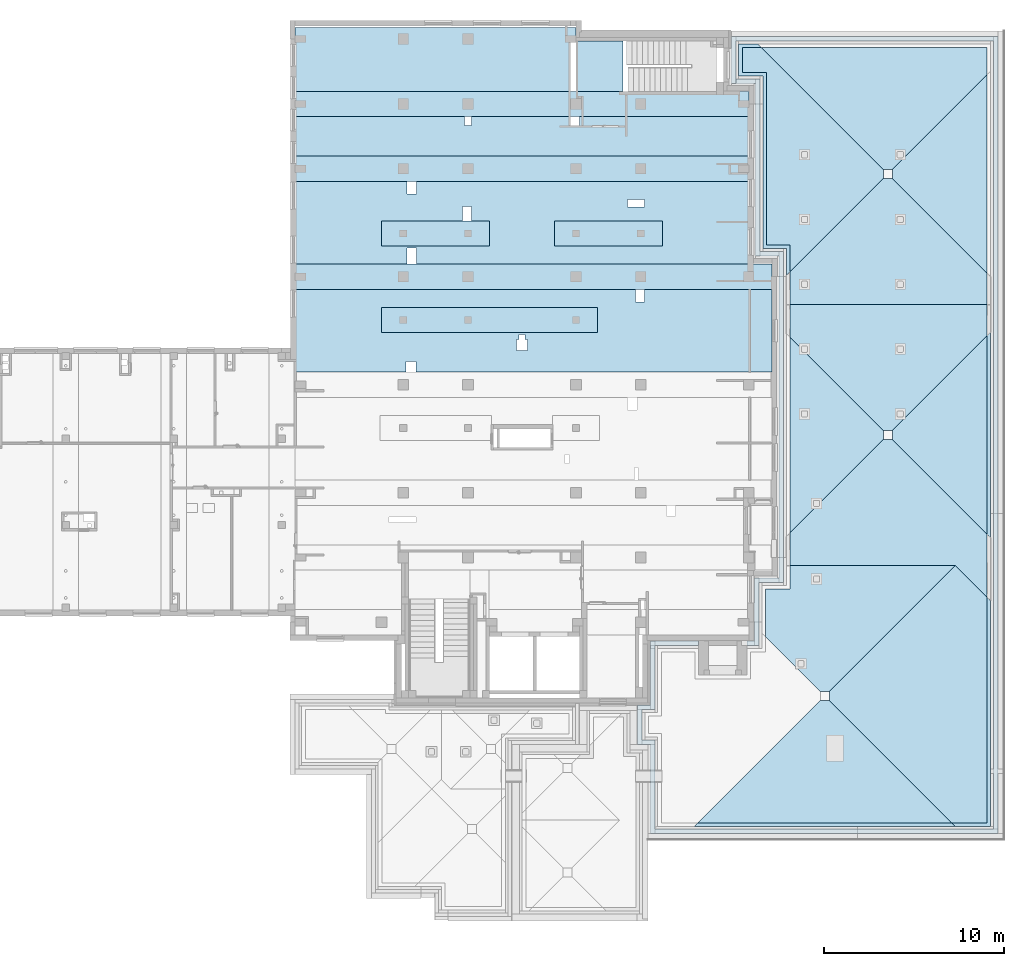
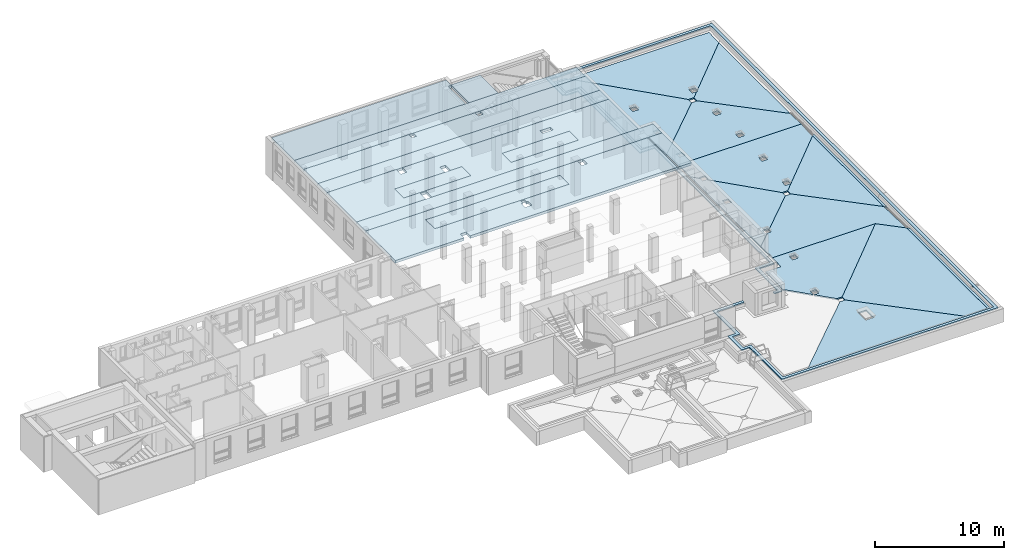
# One storey, part 6 of 50: 28 slabs, 11 openings, 2 elements without a shape of their own.
"""IFC4 building model written with IfcOpenShell, lengths in metres."""

from ifc_helpers import new_model, entity, si_unit, converted_unit, derived_unit, frame, frame_2d, origin, origin_with_axes, place, context, subcontext, project, spatial, polyline, rectangle, outline, extrude, material, layer, layer_set, layer_usage, element, aggregate, save


model = new_model("IFC4")

# Units and contexts
model_context = context("Model", 3, precision=1e-05, world=origin())
body_context = subcontext(model_context, "Body", "Model", "MODEL_VIEW")
ifc_project = project(units=[si_unit("LENGTHUNIT", "METRE"), si_unit("AREAUNIT", "SQUARE_METRE"), si_unit("VOLUMEUNIT", "CUBIC_METRE"), si_unit("MASSUNIT", "GRAM", prefix="KILO"), converted_unit("PLANEANGLEUNIT", "DEGREE", entity("IfcPlaneAngleMeasure", 0.0174532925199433), si_unit("PLANEANGLEUNIT", "RADIAN"), dimensions=[0, 0, 0, 0, 0, 0, 0]), derived_unit("THERMALTRANSMITTANCEUNIT", [(si_unit("POWERUNIT", "WATT"), 1), (si_unit("THERMODYNAMICTEMPERATUREUNIT", "KELVIN"), -1), (si_unit("LENGTHUNIT", "METRE"), -2)]), derived_unit("VOLUMETRICFLOWRATEUNIT", [(si_unit("LENGTHUNIT", "METRE"), 3), (converted_unit("TIMEUNIT", "hour", entity("IfcTimeMeasure", 3600.0), si_unit("TIMEUNIT", "SECOND"), dimensions=[0, 0, 1, 0, 0, 0, 0]), -1), (si_unit("LENGTHUNIT", "METRE"), -1)])], contexts=[model_context])

# Site, building, storey
site_placement = place(None, origin())
site = spatial("IfcSite", under=ifc_project, at=site_placement, Name="3. ASŘ", CompositionType="ELEMENT")
building_placement = place(site_placement, origin())
building = spatial("IfcBuilding", under=site, at=building_placement, Name="Pavilon C", CompositionType="ELEMENT")
storey_placement = place(building_placement, frame((0.0, 0.0, 3.6)))
storey = spatial("IfcBuildingStorey", under=building, at=storey_placement, Name="Půdorys 2.NP", CompositionType="ELEMENT", Elevation=3.6)

# Slabs
ifc_material_1 = material(Name="RZT")
slab_1_placement = place(storey_placement, frame((39.15, 20.9, 3.25)))
element("IfcSlab", 1, at=slab_1_placement, inside=storey, material=ifc_material_1, PredefinedType="FLOOR", context=body_context, shape_type="SweptSolid", body=[
    extrude(rectangle(XDim=1.4, YDim=6.0, at=frame_2d((-3.0, 0.7), x_axis=(0.0, 1.0))), frame((6.0, 0.0, 0.0), z_axis=(0.0, 0.0, 1.0), x_axis=(1.0, 0.0, 0.0)), (0.0, 0.0, 1.0), 0.25),
])
ifc_material_2 = material(Name="RZT")
slab_2_placement = place(storey_placement, frame((24.75, 24.5, 3.25)))
element("IfcSlab", 2, at=slab_2_placement, inside=storey, material=ifc_material_2, PredefinedType="FLOOR", context=body_context, shape_type="SweptSolid", body=[
    extrude(rectangle(XDim=1.4, YDim=25.2, at=frame_2d((-12.6, 0.700000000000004), x_axis=(0.0, 1.0))), frame((25.2, 0.0, 0.0), z_axis=(0.0, 0.0, 1.0), x_axis=(1.0, 0.0, 0.0)), (0.0, 0.0, 1.0), 0.25),
])
ifc_material_3 = material(Name="RZT")
slab_3_placement = place(storey_placement, frame((29.55, 20.9, 3.25)))
element("IfcSlab", 3, at=slab_3_placement, inside=storey, material=ifc_material_3, PredefinedType="FLOOR", context=body_context, shape_type="SweptSolid", body=[
    extrude(rectangle(XDim=1.4, YDim=6.0, at=frame_2d((-3.0, 0.7), x_axis=(0.0, 1.0))), frame((6.0, 0.0, 0.0), z_axis=(0.0, 0.0, 1.0), x_axis=(1.0, 0.0, 0.0)), (0.0, 0.0, 1.0), 0.25),
])

# Slab, openings
ifc_material_4 = material(Name="PZD")
slab_4_placement = place(storey_placement, frame((24.75, 19.9, 3.25)))
slab_4 = element("IfcSlab", 4, at=slab_4_placement, inside=storey, material=ifc_material_4, PredefinedType="FLOOR", context=body_context, shape_type="SweptSolid", body=[
    extrude(outline(polyline([(0.0, 4.59999999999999), (0.0, 0.0), (25.2, 0.0), (25.2, 4.59999999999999), (0.0, 4.59999999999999)]), holes=[polyline([(20.4, 0.999999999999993), (14.4, 0.999999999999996), (14.4, 2.4), (20.4, 2.4), (20.4, 0.999999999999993)]), polyline([(10.8, 0.999999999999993), (4.8, 0.999999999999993), (4.8, 2.4), (10.8, 2.39999999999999), (10.8, 0.999999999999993)])]), origin_with_axes(), (0.0, 0.0, 1.0), 0.25),
])
opening_1_placement = place(slab_4_placement, frame((6.2, 3.9, 9.09494701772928e-16)))
element("IfcOpeningElement", 5, at=opening_1_placement, cuts=slab_4, Name="Prostup deskou", ObjectType="Opening", context=body_context, shape_type="SweptSolid", body=[
    extrude(rectangle(XDim=0.7, YDim=0.55, at=frame_2d((7.27595761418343e-15, -3.63797880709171e-15), x_axis=(0.0, -1.0))), frame((0.274999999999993, 0.350000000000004, -9.09494701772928e-16), z_axis=(0.0, 0.0, 1.0), x_axis=(1.0, 0.0, 0.0)), (0.0, 0.0, 1.0), 0.25),
])
opening_2_placement = place(slab_4_placement, frame((9.3, 2.4, 0.0)))
element("IfcOpeningElement", 6, at=opening_2_placement, cuts=slab_4, Name="Prostup deskou", ObjectType="Opening", context=body_context, shape_type="SweptSolid", body=[
    extrude(rectangle(XDim=0.8, YDim=0.5, at=frame_2d((7.27595761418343e-15, -3.63797880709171e-15), x_axis=(0.0, -1.0))), frame((0.249999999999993, 0.400000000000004, 0.0), z_axis=(0.0, 0.0, 1.0), x_axis=(1.0, 0.0, 0.0)), (0.0, 0.0, 1.0), 0.25),
])
opening_3_placement = place(slab_4_placement, frame((18.45, 3.17499999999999, 0.0)))
element("IfcOpeningElement", 7, at=opening_3_placement, cuts=slab_4, Name="Prostup deskou", ObjectType="Opening", context=body_context, shape_type="SweptSolid", body=[
    extrude(rectangle(XDim=0.4, YDim=0.95, at=frame_2d((7.27595761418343e-15, -3.63797880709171e-15), x_axis=(0.0, -1.0))), frame((0.474999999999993, 0.200000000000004, 0.0), z_axis=(0.0, 0.0, 1.0), x_axis=(1.0, 0.0, 0.0)), (0.0, 0.0, 1.0), 0.25),
])
opening_4_placement = place(slab_4_placement, frame((6.2, 0.0, 0.0)))
element("IfcOpeningElement", 8, at=opening_4_placement, cuts=slab_4, Name="Prostup deskou", ObjectType="Opening", context=body_context, shape_type="SweptSolid", body=[
    extrude(rectangle(XDim=0.9, YDim=0.55, at=frame_2d((7.27595761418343e-15, 0.0), x_axis=(0.0, -1.0))), frame((0.274999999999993, 0.45, 0.0), z_axis=(0.0, 0.0, 1.0), x_axis=(1.0, 0.0, 0.0)), (0.0, 0.0, 1.0), 0.25),
])

# Slabs
ifc_material_5 = material(Name="RZT")
slab_5_placement = place(storey_placement, frame((29.55, 16.1, 3.25)))
element("IfcSlab", 9, at=slab_5_placement, inside=storey, material=ifc_material_5, PredefinedType="FLOOR", context=body_context, shape_type="SweptSolid", body=[
    extrude(rectangle(XDim=1.4, YDim=12.0, at=frame_2d((-6.0, 0.7), x_axis=(0.0, 1.0))), frame((12.0, 0.0, 0.0), z_axis=(0.0, 0.0, 1.0), x_axis=(1.0, 0.0, 0.0)), (0.0, 0.0, 1.0), 0.25),
])
ifc_material_6 = material(Name="PZD")
slab_6_placement = place(storey_placement, frame((50.05, 13.9, 3.25)))
element("IfcSlab", 10, at=slab_6_placement, inside=storey, material=ifc_material_6, PredefinedType="FLOOR", context=body_context, shape_type="SweptSolid", body=[
    extrude(rectangle(XDim=1.2, YDim=4.6, at=frame_2d((0.6, 2.3), x_axis=(1.0, 0.0))), origin_with_axes(), (0.0, 0.0, 1.0), 0.25),
])
ifc_material_7 = material(Name="RZT")
slab_7_placement = place(storey_placement, frame((24.75, 18.5, 3.25)))
element("IfcSlab", 11, at=slab_7_placement, inside=storey, material=ifc_material_7, PredefinedType="FLOOR", context=body_context, shape_type="SweptSolid", body=[
    extrude(rectangle(XDim=1.4, YDim=26.5, at=frame_2d((-13.25, 0.7), x_axis=(0.0, 1.0))), frame((26.5, 0.0, 0.0), z_axis=(0.0, 0.0, 1.0), x_axis=(1.0, 0.0, 0.0)), (0.0, 0.0, 1.0), 0.25),
])
ifc_material_8 = material(Name="RZT")
slab_8_placement = place(storey_placement, frame((24.75, 28.1, 3.25)))
element("IfcSlab", 12, at=slab_8_placement, inside=storey, material=ifc_material_8, PredefinedType="FLOOR", context=body_context, shape_type="SweptSolid", body=[
    extrude(rectangle(XDim=1.4, YDim=25.2, at=frame_2d((-12.6, 0.700000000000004), x_axis=(0.0, 1.0))), frame((25.2, 0.0, 0.0), z_axis=(0.0, 0.0, 1.0), x_axis=(1.0, 0.0, 0.0)), (0.0, 0.0, 1.0), 0.25),
])

# Slab, opening
ifc_material_9 = material(Name="PZD")
slab_9_placement = place(storey_placement, frame((24.75, 29.5, 3.25)))
slab_9 = element("IfcSlab", 13, at=slab_9_placement, inside=storey, material=ifc_material_9, PredefinedType="FLOOR", context=body_context, shape_type="SweptSolid", body=[
    extrude(outline(polyline([(0.0, 3.63797880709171e-15), (18.2, 0.0), (18.2, 2.8), (15.6, 2.8), (15.6, 3.55), (0.0, 3.55), (0.0, 3.63797880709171e-15)])), origin_with_axes(), (0.0, 0.0, 1.0), 0.25),
])
opening_5_placement = place(slab_9_placement, frame((15.3, 0.0, 0.0)))
element("IfcOpeningElement", 14, at=opening_5_placement, cuts=slab_9, Name="Prostup deskou", ObjectType="Opening", context=body_context, shape_type="SweptSolid", body=[
    extrude(rectangle(XDim=2.7, YDim=0.3, at=frame_2d((7.27595761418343e-15, -3.63797880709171e-15), x_axis=(0.0, -1.0))), frame((0.149999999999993, 1.35, 0.0), z_axis=(0.0, 0.0, 1.0), x_axis=(1.0, 0.0, 0.0)), (0.0, 0.0, 1.0), 0.25),
])

# Slab, openings
ifc_material_10 = material(Name="PZD")
slab_10_placement = place(storey_placement, frame((24.75, 25.9, 3.25)))
slab_10 = element("IfcSlab", 15, at=slab_10_placement, inside=storey, material=ifc_material_10, PredefinedType="FLOOR", context=body_context, shape_type="SweptSolid", body=[
    extrude(rectangle(XDim=25.2, YDim=2.2, at=frame_2d((12.6, 1.1), x_axis=(1.0, -1.44364238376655e-16))), frame((0.0, 3.63797880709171e-15, 0.0), z_axis=(0.0, 0.0, 1.0), x_axis=(1.0, 0.0, 0.0)), (0.0, 0.0, 1.0), 0.25),
])
opening_6_placement = place(slab_10_placement, frame((15.3, 1.7, 0.0)))
element("IfcOpeningElement", 16, at=opening_6_placement, cuts=slab_10, Name="Prostup deskou", ObjectType="Opening", context=body_context, shape_type="SweptSolid", body=[
    extrude(rectangle(XDim=0.5, YDim=0.5, at=frame_2d((7.27595761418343e-15, -3.63797880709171e-15), x_axis=(0.0, -1.0))), frame((0.249999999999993, 0.250000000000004, 0.0), z_axis=(0.0, 0.0, 1.0), x_axis=(1.0, 0.0, 0.0)), (0.0, 0.0, 1.0), 0.25),
])
opening_7_placement = place(slab_10_placement, frame((9.4, 1.7, 0.0)))
element("IfcOpeningElement", 17, at=opening_7_placement, cuts=slab_10, Name="Prostup deskou", ObjectType="Opening", context=body_context, shape_type="SweptSolid", body=[
    extrude(rectangle(XDim=0.5, YDim=0.4, at=frame_2d((7.27595761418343e-15, -3.63797880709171e-15), x_axis=(0.0, -1.0))), frame((0.199999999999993, 0.250000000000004, 0.0), z_axis=(0.0, 0.0, 1.0), x_axis=(1.0, 0.0, 0.0)), (0.0, 0.0, 1.0), 0.25),
])

ifc_material_11 = material(Name="PZD")
slab_11_placement = place(storey_placement, frame((24.75, 13.9, 3.25)))
slab_11 = element("IfcSlab", 18, at=slab_11_placement, inside=storey, material=ifc_material_11, PredefinedType="FLOOR", context=body_context, shape_type="SweptSolid", body=[
    extrude(outline(polyline([(0.0, 4.6), (0.0, 0.0), (25.2, 0.0), (25.2, 4.6), (0.0, 4.6)]), holes=[polyline([(4.8, 3.6), (16.8, 3.6), (16.8, 2.2), (4.8, 2.2), (4.8, 3.6)])]), origin_with_axes(), (0.0, 0.0, 1.0), 0.25),
])
opening_8_placement = place(slab_11_placement, frame((6.15, 0.0, 0.0)))
element("IfcOpeningElement", 19, at=opening_8_placement, cuts=slab_11, Name="Prostup deskou", ObjectType="Opening", context=body_context, shape_type="SweptSolid", body=[
    extrude(rectangle(XDim=0.6, YDim=0.55, at=frame_2d((7.27595761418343e-15, -1.81898940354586e-15), x_axis=(0.0, -1.0))), frame((0.274999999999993, 0.300000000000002, 0.0), z_axis=(0.0, 0.0, 1.0), x_axis=(1.0, 0.0, 0.0)), (0.0, 0.0, 1.0), 0.25),
])
opening_9_placement = place(slab_11_placement, frame((18.9, 3.9, 0.0)))
element("IfcOpeningElement", 20, at=opening_9_placement, cuts=slab_11, Name="Prostup deskou", ObjectType="Opening", context=body_context, shape_type="SweptSolid", body=[
    extrude(rectangle(XDim=0.7, YDim=0.5, at=frame_2d((7.27595761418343e-15, -3.63797880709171e-15), x_axis=(0.0, -1.0))), frame((0.249999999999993, 0.350000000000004, 0.0), z_axis=(0.0, 0.0, 1.0), x_axis=(1.0, 0.0, 0.0)), (0.0, 0.0, 1.0), 0.25),
])
opening_10_placement = place(slab_11_placement, frame((12.425, 1.8, 9.09494701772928e-16)))
element("IfcOpeningElement", 21, at=opening_10_placement, cuts=slab_11, Name="Prostup deskou", ObjectType="Opening", context=body_context, shape_type="SweptSolid", body=[
    extrude(rectangle(XDim=0.275, YDim=0.35, at=frame_2d((7.27595761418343e-15, -3.63797880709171e-15), x_axis=(0.0, -1.0))), frame((0.174999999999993, 0.137500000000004, -9.09494701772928e-16), z_axis=(0.0, 0.0, 1.0), x_axis=(1.0, 0.0, 0.0)), (0.0, 0.0, 1.0), 0.25),
])
opening_11_placement = place(slab_11_placement, frame((12.3, 1.2, 0.0)))
element("IfcOpeningElement", 22, at=opening_11_placement, cuts=slab_11, Name="Prostup deskou", ObjectType="Opening", context=body_context, shape_type="SweptSolid", body=[
    extrude(rectangle(XDim=0.6, YDim=0.6, at=frame_2d((7.27595761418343e-15, -3.63797880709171e-15), x_axis=(0.0, -1.0))), frame((0.299999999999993, 0.300000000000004, 0.0), z_axis=(0.0, 0.0, 1.0), x_axis=(1.0, 0.0, 0.0)), (0.0, 0.0, 1.0), 0.25),
])

# Roof, slabs
roof_1_placement = place(storey_placement, frame((0.0, 0.0, -3.6)))
roof_1 = element("IfcRoof", 23, at=roof_1_placement, inside=storey, PredefinedType="NOTDEFINED")
ifc_material_12 = material(Name="ASFALTOVÁ HYDROIZOLACE")
ifc_layer_1 = layer(ifc_material_12, 0.01)
ifc_material_13 = material(Name="KAČÍREK")
ifc_layer_2 = layer(ifc_material_13, 0.12)
ifc_layer_set_1 = layer_set([ifc_layer_1, ifc_layer_2])
ifc_layer_usage_1 = layer_usage(ifc_layer_set_1, "AXIS3", "POSITIVE", 0.0)
slab_12_placement = place(roof_1_placement, frame((46.94, -11.34, 4.13370000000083)))
slab_12 = element("IfcSlab", 24, at=slab_12_placement, material=ifc_layer_usage_1, PredefinedType="ROOF", context=body_context, shape_type="SweptSolid", body=[
    extrude(outline(polyline([(-7.23999999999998, -0.100044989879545), (7.23999999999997, -0.100044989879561), (7.03999999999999, 0.100044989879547), (-7.04000000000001, 0.100044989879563), (-7.23999999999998, -0.100044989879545)])), frame((7.23999999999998, 0.1, 0.00300000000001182), z_axis=(-3.1830731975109e-17, 0.0299865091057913, 0.999550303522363), x_axis=(1.0, 1.06150175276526e-15, 0.0)), (0.0, -0.0299865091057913, 0.999550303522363), 0.13005848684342),
])
ifc_material_14 = material(Name="ASFALTOVÁ HYDROIZOLACE")
ifc_layer_3 = layer(ifc_material_14, 0.01)
ifc_material_15 = material(Name="KAČÍREK")
ifc_layer_4 = layer(ifc_material_15, 0.12)
ifc_layer_set_2 = layer_set([ifc_layer_3, ifc_layer_4])
ifc_layer_usage_2 = layer_usage(ifc_layer_set_2, "AXIS3", "POSITIVE", 0.0)
slab_13_placement = place(roof_1_placement, frame((61.22, -11.34, 4.13370000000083)))
slab_13 = element("IfcSlab", 25, at=slab_13_placement, material=ifc_layer_usage_2, PredefinedType="ROOF", context=body_context, shape_type="SweptSolid", body=[
    extrude(outline(polyline([(-4.07666666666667, 1.41396919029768), (-4.27666666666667, 1.21387921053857), (-4.27666666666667, -0.757007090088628), (8.25333333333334, -0.757007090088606), (8.45333333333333, -0.556917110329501), (-4.07666666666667, -0.556917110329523), (-4.07666666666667, 1.41396919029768)])), frame((1.41333333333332, 4.27666666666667, 0.0424000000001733), z_axis=(-0.0299865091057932, 5.00335433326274e-17, 0.999550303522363), x_axis=(1.66853511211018e-15, 1.0, 0.0)), (0.0, -0.0299865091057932, 0.999550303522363), 0.130058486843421),
])
ifc_material_16 = material(Name="ASFALTOVÁ HYDROIZOLACE")
ifc_layer_5 = layer(ifc_material_16, 0.01)
ifc_material_17 = material(Name="KAČÍREK")
ifc_layer_6 = layer(ifc_material_17, 0.12)
ifc_layer_set_3 = layer_set([ifc_layer_5, ifc_layer_6])
ifc_layer_usage_3 = layer_usage(ifc_layer_set_3, "AXIS3", "POSITIVE", 0.0)
slab_14_placement = place(roof_1_placement, frame((49.39, 19.26, 4.08570000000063)))
slab_14 = element("IfcSlab", 26, at=slab_14_placement, material=ifc_layer_usage_3, PredefinedType="ROOF", context=body_context, shape_type="SweptSolid", body=[
    extrude(outline(polyline([(-5.36285714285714, -0.142921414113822), (-5.56285714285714, -0.343011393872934), (-5.56285714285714, -1.39348378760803), (-3.76285714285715, -1.39348378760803), (-3.76285714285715, -0.0428764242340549), (5.81714285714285, -0.0428764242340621), (5.81714285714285, 1.25770844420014), (7.31714285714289, 1.25770844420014), (7.11714285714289, 1.45779842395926), (5.61714285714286, 1.45779842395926), (5.61714285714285, 0.15721355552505), (-3.96285714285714, 0.157213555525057), (-3.96285714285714, -1.19339380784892), (-5.36285714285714, -1.19339380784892), (-5.36285714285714, -0.142921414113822)])), frame((1.3928571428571, 7.31714285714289, 0.0437142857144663), z_axis=(0.0299865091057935, 2.34293534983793e-17, 0.999550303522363), x_axis=(7.81329811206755e-16, -1.0, 0.0)), (0.0, -0.0299865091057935, 0.999550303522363), 0.130058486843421),
])
ifc_material_18 = material(Name="ASFALTOVÁ HYDROIZOLACE")
ifc_layer_7 = layer(ifc_material_18, 0.01)
ifc_material_19 = material(Name="KAČÍREK")
ifc_layer_8 = layer(ifc_material_19, 0.12)
ifc_layer_set_4 = layer_set([ifc_layer_7, ifc_layer_8])
ifc_layer_usage_4 = layer_usage(ifc_layer_set_4, "AXIS3", "POSITIVE", 0.0)
slab_15_placement = place(roof_1_placement, frame((63.19, 4.68999999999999, 4.08780000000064)))
slab_15 = element("IfcSlab", 27, at=slab_15_placement, material=ifc_layer_usage_4, PredefinedType="ROOF", context=body_context, shape_type="SweptSolid", body=[
    extrude(outline(polyline([(-5.71000000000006, -0.100044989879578), (5.71000000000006, -0.100044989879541), (5.51000000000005, 0.100044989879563), (-5.51000000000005, 0.100044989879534), (-5.71000000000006, -0.100044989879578)])), frame((0.1, 5.71000000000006, 0.00300000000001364), z_axis=(-0.0299865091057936, 8.10236813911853e-17, 0.999550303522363), x_axis=(2.70200446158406e-15, 1.0, 0.0)), (0.0, -0.0299865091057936, 0.999550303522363), 0.13005848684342),
])
aggregate(roof_1, [slab_12, slab_13, slab_14, slab_15])

roof_2_placement = place(storey_placement, frame((0.0, 0.0, -3.6)))
roof_2 = element("IfcRoof", 28, at=roof_2_placement, inside=storey, PredefinedType="NOTDEFINED")
ifc_material_20 = material(Name="ASFALTOVÁ HYDROIZOLACE")
ifc_layer_9 = layer(ifc_material_20, 0.01)
ifc_material_21 = material(Name="SOUVRSTVÍ ZELENÉ STŘECHY")
ifc_layer_10 = layer(ifc_material_21, 0.12)
ifc_layer_set_5 = layer_set([ifc_layer_9, ifc_layer_10])
ifc_layer_usage_5 = layer_usage(ifc_layer_set_5, "AXIS3", "POSITIVE", 0.0)
slab_16_placement = place(roof_2_placement, frame((47.14, -11.14, 3.93)))
slab_16 = element("IfcSlab", 29, at=slab_16_placement, material=ifc_layer_usage_5, PredefinedType="ROOF", context=body_context, shape_type="SweptSolid", body=[
    extrude(outline(polyline([(6.75999999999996, -3.76819240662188), (-0.0300000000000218, 3.02486240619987), (-0.530000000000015, 3.02486240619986), (-7.32000000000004, -3.76819240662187), (6.75999999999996, -3.76819240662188)]), holes=[polyline([(-0.0699999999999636, -0.228604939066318), (-0.0699999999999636, 0.97193493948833), (0.630000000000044, 0.97193493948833), (0.630000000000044, -0.228604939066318), (-0.0699999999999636, -0.228604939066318)])]), frame((7.32000000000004, 3.76649786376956, 0.090705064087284), z_axis=(-2.84304387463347e-17, 0.029986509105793, 0.999550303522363), x_axis=(1.0, 9.48107652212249e-16, 0.0)), (0.0, -0.029986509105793, 0.999550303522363), 0.13005848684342),
])
ifc_material_22 = material(Name="ASFALTOVÁ HYDROIZOLACE")
ifc_layer_11 = layer(ifc_material_22, 0.01)
ifc_material_23 = material(Name="SOUVRSTVÍ ZELENÉ STŘECHY")
ifc_layer_12 = layer(ifc_material_23, 0.12)
ifc_layer_set_6 = layer_set([ifc_layer_11, ifc_layer_12])
ifc_layer_usage_6 = layer_usage(ifc_layer_set_6, "AXIS3", "POSITIVE", 0.0)
slab_17_placement = place(roof_2_placement, frame((54.43, -11.14, 3.93)))
slab_17 = element("IfcSlab", 30, at=slab_17_placement, material=ifc_layer_usage_6, PredefinedType="ROOF", context=body_context, shape_type="SweptSolid", body=[
    extrude(outline(polyline([(5.71333333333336, -3.54326005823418), (7.47333333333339, -1.782468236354), (0.473333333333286, 5.22068105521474), (-0.0266666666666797, 5.22068105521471), (-6.81666666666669, -1.57237375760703), (-6.81666666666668, -3.54326005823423), (5.71333333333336, -3.54326005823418)])), frame((5.21833333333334, 6.81666666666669, 0.156550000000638), z_axis=(-0.0299865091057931, 1.09435065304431e-16, 0.999550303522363), x_axis=(3.64947666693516e-15, 1.0, 0.0)), (0.0, -0.0299865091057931, 0.999550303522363), 0.130058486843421),
])
ifc_material_24 = material(Name="ASFALTOVÁ HYDROIZOLACE")
ifc_layer_13 = layer(ifc_material_24, 0.01)
ifc_material_25 = material(Name="SOUVRSTVÍ ZELENÉ STŘECHY")
ifc_layer_14 = layer(ifc_material_25, 0.12)
ifc_layer_set_7 = layer_set([ifc_layer_13, ifc_layer_14])
ifc_layer_usage_7 = layer_usage(ifc_layer_set_7, "AXIS3", "POSITIVE", 0.0)
slab_18_placement = place(roof_2_placement, frame((50.88, -3.84999999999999, 3.93)))
slab_18 = element("IfcSlab", 31, at=slab_18_placement, material=ifc_layer_usage_7, PredefinedType="ROOF", context=body_context, shape_type="SweptSolid", body=[
    extrude(outline(polyline([(2.55311374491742, 0.75782953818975), (0.832933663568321, 2.47878352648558), (0.832933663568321, 2.01857657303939), (0.333293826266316, 2.01857657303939), (0.333293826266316, 2.51844119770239), (0.793293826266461, 2.51844119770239), (-0.496886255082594, 3.80920172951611), (-0.996886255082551, 3.80920172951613), (-7.99688625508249, -3.19394756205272), (1.19311374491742, -3.19394756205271), (1.19311374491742, -1.88335819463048), (2.55311374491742, -1.88335819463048), (2.55311374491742, 0.75782953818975)]), holes=[polyline([(-0.03206633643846, -2.19367782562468), (-0.03206633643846, -2.69354245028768), (-0.531706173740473, -2.69354245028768), (-0.531706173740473, -2.19367782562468), (-0.03206633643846, -2.19367782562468)])]), frame((2.55311374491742, 3.80748874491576, 0.114224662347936), z_axis=(-2.31399151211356e-17, -0.0299865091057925, 0.999550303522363), x_axis=(-1.0, 7.71677524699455e-16, 0.0)), (0.0, -0.0299865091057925, 0.999550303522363), 0.13005848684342),
])
ifc_material_26 = material(Name="ASFALTOVÁ HYDROIZOLACE")
ifc_layer_15 = layer(ifc_material_26, 0.01)
ifc_material_27 = material(Name="SOUVRSTVÍ ZELENÉ STŘECHY")
ifc_layer_16 = layer(ifc_material_27, 0.12)
ifc_layer_set_8 = layer_set([ifc_layer_15, ifc_layer_16])
ifc_layer_usage_8 = layer_usage(ifc_layer_set_8, "AXIS3", "POSITIVE", 0.0)
slab_19_placement = place(roof_2_placement, frame((52.24, 17.6500000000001, 3.93)))
slab_19 = element("IfcSlab", 32, at=slab_19_placement, material=ifc_layer_usage_8, PredefinedType="ROOF", context=body_context, shape_type="SweptSolid", body=[
    extrude(outline(polyline([(6.22666666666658, -0.785353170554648), (0.966666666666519, 4.47701329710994), (0.466666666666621, 4.47701329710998), (-4.72333333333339, -0.715321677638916), (-4.72333333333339, -2.52613599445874), (6.22666666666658, -2.52613599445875), (6.22666666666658, -0.785353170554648)]), holes=[polyline([(-3.66351341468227, -1.65056217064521), (-4.16315325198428, -1.65056217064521), (-4.16315325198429, -1.15069754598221), (-3.66351341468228, -1.15069754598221), (-3.66351341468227, -1.65056217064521)]), polyline([(1.65148658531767, -1.15069754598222), (1.65148658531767, -1.65056217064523), (1.15184674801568, -1.65056217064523), (1.15184674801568, -1.15069754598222), (1.65148658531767, -1.15069754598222)]), polyline([(1.65148658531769, 2.45092208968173), (1.65148658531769, 1.95105746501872), (1.15184674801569, 1.95105746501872), (1.1518467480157, 2.45092208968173), (1.65148658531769, 2.45092208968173)])]), frame((4.72333333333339, 2.52500000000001, 0.134250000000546), z_axis=(-5.99224298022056e-17, 0.0299865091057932, 0.999550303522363), x_axis=(1.0, 1.99831296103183e-15, 0.0)), (0.0, -0.0299865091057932, 0.999550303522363), 0.130058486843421),
])
ifc_material_28 = material(Name="ASFALTOVÁ HYDROIZOLACE")
ifc_layer_17 = layer(ifc_material_28, 0.01)
ifc_material_29 = material(Name="SOUVRSTVÍ ZELENÉ STŘECHY")
ifc_layer_18 = layer(ifc_material_29, 0.12)
ifc_layer_set_9 = layer_set([ifc_layer_17, ifc_layer_18])
ifc_layer_usage_9 = layer_usage(ifc_layer_set_9, "AXIS3", "POSITIVE", 0.0)
slab_20_placement = place(roof_2_placement, frame((57.93, 19.39, 3.93)))
slab_20 = element("IfcSlab", 33, at=slab_20_placement, material=ifc_layer_usage_9, PredefinedType="ROOF", context=body_context, shape_type="SweptSolid", body=[
    extrude(outline(polyline([(5.14068855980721, -3.48087677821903), (0.565508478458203, 1.09636167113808), (0.455868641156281, 1.09636167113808), (0.455868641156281, 1.20605083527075), (-0.11931144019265, 1.78148968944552), (-0.619311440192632, 1.78148968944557), (-5.87931144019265, -3.48087677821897), (5.14068855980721, -3.48087677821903)])), frame((1.78068855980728, 5.87931144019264, 0.053420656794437), z_axis=(-0.0299865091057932, -1.50947252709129e-16, 0.999550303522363), x_axis=(-5.03383878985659e-15, 1.0, 0.0)), (0.0, -0.0299865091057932, 0.999550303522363), 0.130058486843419),
])
ifc_material_30 = material(Name="ASFALTOVÁ HYDROIZOLACE")
ifc_layer_19 = layer(ifc_material_30, 0.01)
ifc_material_31 = material(Name="SOUVRSTVÍ ZELENÉ STŘECHY")
ifc_layer_20 = layer(ifc_material_31, 0.12)
ifc_layer_set_10 = layer_set([ifc_layer_19, ifc_layer_20])
ifc_layer_usage_10 = layer_usage(ifc_layer_set_10, "AXIS3", "POSITIVE", 0.0)
slab_21_placement = place(roof_2_placement, frame((50.6399999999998, 25.1499999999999, 3.93)))
slab_21 = element("IfcSlab", 34, at=slab_21_placement, material=ifc_layer_usage_10, PredefinedType="ROOF", context=body_context, shape_type="SweptSolid", body=[
    extrude(outline(polyline([(-4.75548199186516, -4.50954593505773), (7.79451800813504, -4.50954593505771), (1.0045180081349, 2.28350887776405), (0.504518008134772, 2.283508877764), (-0.0706620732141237, 1.70807002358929), (0.319337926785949, 1.70807002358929), (0.319337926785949, 1.20820539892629), (-0.180301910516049, 1.20820539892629), (-0.180301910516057, 1.59838085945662), (-4.75548199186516, -2.9788575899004), (-4.75548199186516, -4.50954593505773)])), frame((7.79451800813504, 2.28248199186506, 0.068474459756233), z_axis=(-3.04335993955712e-17, -0.0299865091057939, 0.999550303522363), x_axis=(-1.0, 1.01490971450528e-15, 0.0)), (0.0, -0.0299865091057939, 0.999550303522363), 0.130058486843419),
])
ifc_material_32 = material(Name="ASFALTOVÁ HYDROIZOLACE")
ifc_layer_21 = layer(ifc_material_32, 0.01)
ifc_material_33 = material(Name="SOUVRSTVÍ ZELENÉ STŘECHY")
ifc_layer_22 = layer(ifc_material_33, 0.12)
ifc_layer_set_11 = layer_set([ifc_layer_21, ifc_layer_22])
ifc_layer_usage_11 = layer_usage(ifc_layer_set_11, "AXIS3", "POSITIVE", 0.0)
slab_22_placement = place(roof_2_placement, frame((49.59, 19.46, 3.93)))
slab_22 = element("IfcSlab", 35, at=slab_22_placement, material=ifc_layer_usage_11, PredefinedType="ROOF", context=body_context, shape_type="SweptSolid", body=[
    extrude(outline(polyline([(5.80705882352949, -0.433135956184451), (0.617058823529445, 4.7591990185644), (0.117058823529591, 4.75919901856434), (-6.67294117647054, -2.0338557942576), (-6.67294117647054, -3.08432818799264), (-5.27294117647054, -3.08432818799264), (-5.27294117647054, -1.73372082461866), (4.30705882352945, -1.73372082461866), (4.30705882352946, -0.433135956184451), (5.80705882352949, -0.433135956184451)]), holes=[polyline([(-0.957761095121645, 0.127296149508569), (-0.957761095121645, 0.627160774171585), (-0.458121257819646, 0.627160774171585), (-0.458121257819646, 0.127296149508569), (-0.957761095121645, 0.127296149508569)]), polyline([(2.64223890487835, 0.127296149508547), (2.64223890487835, 0.627160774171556), (3.14187874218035, 0.627160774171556), (3.14187874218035, 0.12729614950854), (2.64223890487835, 0.127296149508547)])]), frame((3.08294117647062, 5.80705882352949, 0.142711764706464), z_axis=(0.0299865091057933, -1.0566674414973e-17, 0.999550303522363), x_axis=(-3.52380944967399e-16, -1.0, 0.0)), (0.0, -0.0299865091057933, 0.999550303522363), 0.130058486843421),
])
ifc_material_34 = material(Name="ASFALTOVÁ HYDROIZOLACE")
ifc_layer_23 = layer(ifc_material_34, 0.01)
ifc_material_35 = material(Name="SOUVRSTVÍ ZELENÉ STŘECHY")
ifc_layer_24 = layer(ifc_material_35, 0.12)
ifc_layer_set_12 = layer_set([ifc_layer_23, ifc_layer_24])
ifc_layer_usage_12 = layer_usage(ifc_layer_set_12, "AXIS3", "POSITIVE", 0.0)
slab_23_placement = place(roof_2_placement, frame((52.24, 1.39000000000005, 3.93)))
slab_23 = element("IfcSlab", 36, at=slab_23_placement, material=ifc_layer_usage_12, PredefinedType="ROOF", context=body_context, shape_type="SweptSolid", body=[
    extrude(outline(polyline([(6.26901800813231, -0.832892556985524), (1.00901800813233, 4.42947391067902), (0.509018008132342, 4.42947391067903), (-2.95616207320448, 0.962734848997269), (-2.95616207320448, 0.627944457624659), (-3.29080191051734, 0.62794445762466), (-4.68098199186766, -0.762861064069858), (-4.68098199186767, -2.57367538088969), (4.5090180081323, -2.57367538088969), (6.26901800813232, -4.33446720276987), (6.26901800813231, -0.832892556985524)])), frame((4.68098199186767, 4.33251800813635, 0.132824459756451), z_axis=(-1.44170893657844e-17, 0.0299865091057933, 0.999550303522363), x_axis=(1.0, 4.8078585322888e-16, 0.0)), (0.0, -0.0299865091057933, 0.999550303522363), 0.130058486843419),
])
ifc_material_36 = material(Name="ASFALTOVÁ HYDROIZOLACE")
ifc_layer_25 = layer(ifc_material_36, 0.01)
ifc_material_37 = material(Name="SOUVRSTVÍ ZELENÉ STŘECHY")
ifc_layer_26 = layer(ifc_material_37, 0.12)
ifc_layer_set_13 = layer_set([ifc_layer_25, ifc_layer_26])
ifc_layer_usage_13 = layer_usage(ifc_layer_set_13, "AXIS3", "POSITIVE", 0.0)
slab_24_placement = place(roof_2_placement, frame((57.93, 4.88999999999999, 3.93)))
slab_24 = element("IfcSlab", 37, at=slab_24_placement, material=ifc_layer_usage_13, PredefinedType="ROOF", context=body_context, shape_type="SweptSolid", body=[
    extrude(outline(polyline([(-5.90788286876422, -3.46658463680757), (5.11211713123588, -3.46658463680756), (0.536937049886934, 1.11065381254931), (0.527297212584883, 1.11065381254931), (0.527297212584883, 1.12029798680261), (-0.147882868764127, 1.79578183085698), (-0.647882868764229, 1.79578183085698), (-5.90788286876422, -3.46658463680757)])), frame((1.79497427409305, 5.90788286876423, 0.0538492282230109), z_axis=(-0.0299865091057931, 5.77301010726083e-17, 0.999550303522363), x_axis=(1.92520245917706e-15, 1.0, 0.0)), (0.0, -0.0299865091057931, 0.999550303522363), 0.130058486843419),
])
ifc_material_38 = material(Name="ASFALTOVÁ HYDROIZOLACE")
ifc_layer_27 = layer(ifc_material_38, 0.01)
ifc_material_39 = material(Name="SOUVRSTVÍ ZELENÉ STŘECHY")
ifc_layer_28 = layer(ifc_material_39, 0.12)
ifc_layer_set_14 = layer_set([ifc_layer_27, ifc_layer_28])
ifc_layer_usage_14 = layer_usage(ifc_layer_set_14, "AXIS3", "POSITIVE", 0.0)
slab_25_placement = place(roof_2_placement, frame((52.24, 10.65, 3.93)))
slab_25 = element("IfcSlab", 38, at=slab_25_placement, material=ifc_layer_usage_14, PredefinedType="ROOF", context=body_context, shape_type="SweptSolid", body=[
    extrude(outline(polyline([(-6.33499999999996, -3.51835019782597), (4.61500000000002, -3.51835019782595), (4.61500000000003, -1.70753588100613), (4.05481991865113, -1.14710377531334), (4.05481991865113, -1.29216901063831), (3.55518008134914, -1.29216901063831), (3.55518008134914, -0.7923043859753), (3.70018008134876, -0.7923043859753), (-0.575000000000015, 3.48479909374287), (-1.07499999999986, 3.48479909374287), (-1.75018008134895, 2.80931524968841), (-1.26018008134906, 2.80931524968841), (-1.26018008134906, 2.3094506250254), (-1.75981991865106, 2.3094506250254), (-1.75981991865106, 2.7996710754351), (-6.33499999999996, -1.77756737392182), (-6.33499999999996, -3.51835019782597)]), holes=[polyline([(-1.26018008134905, -0.792304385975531), (-1.26018008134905, -1.29216901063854), (-1.75981991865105, -1.29216901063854), (-1.75981991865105, -0.792304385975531), (-1.26018008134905, -0.792304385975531)])]), frame((4.61500000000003, 3.48323199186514, 0.104496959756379), z_axis=(6.82824342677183e-18, -0.0299865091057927, 0.999550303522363), x_axis=(-1.0, -2.27710514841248e-16, 0.0)), (0.0, -0.0299865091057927, 0.999550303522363), 0.130058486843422),
])
ifc_material_40 = material(Name="ASFALTOVÁ HYDROIZOLACE")
ifc_layer_29 = layer(ifc_material_40, 0.01)
ifc_material_41 = material(Name="SOUVRSTVÍ ZELENÉ STŘECHY")
ifc_layer_30 = layer(ifc_material_41, 0.12)
ifc_layer_set_15 = layer_set([ifc_layer_29, ifc_layer_30])
ifc_layer_usage_15 = layer_usage(ifc_layer_set_15, "AXIS3", "POSITIVE", 0.0)
slab_26_placement = place(roof_2_placement, frame((52.24, 4.95999999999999, 3.93)))
slab_26 = element("IfcSlab", 39, at=slab_26_placement, material=ifc_layer_usage_15, PredefinedType="ROOF", context=body_context, shape_type="SweptSolid", body=[
    extrude(outline(polyline([(5.42218750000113, -1.43473020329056), (4.03200741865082, -0.0439246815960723), (4.03200741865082, -0.208998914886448), (3.53236758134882, -0.208998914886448), (3.53236758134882, 0.290865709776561), (3.69736758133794, 0.290865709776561), (0.2321875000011, 3.75760477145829), (-0.267812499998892, 3.7576047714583), (-4.54299258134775, -0.519498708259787), (-4.54299258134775, -0.874298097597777), (-4.89763241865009, -0.874298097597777), (-5.457812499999, -1.43473020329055), (5.42218750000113, -1.43473020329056)]), holes=[polyline([(-1.44263241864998, -0.874298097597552), (-1.44263241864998, -0.374433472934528), (-0.94299258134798, -0.374433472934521), (-0.94299258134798, -0.874298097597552), (-1.44263241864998, -0.874298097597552)])]), frame((1.43408501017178, 5.42218750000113, 0.112677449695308), z_axis=(0.0299865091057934, 2.55499720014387e-17, 0.999550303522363), x_axis=(8.52048896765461e-16, -1.0, 0.0)), (0.0, -0.0299865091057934, 0.999550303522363), 0.13005848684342),
])
aggregate(roof_2, [slab_16, slab_17, slab_18, slab_19, slab_20, slab_21, slab_22, slab_23, slab_24, slab_25, slab_26])

# Slabs
ifc_material_42 = material(Name="MINERÁLNÍ VATA")
slab_27_placement = place(storey_placement, frame((49.23, -1.29, 0.75)))
element("IfcSlab", 40, at=slab_27_placement, inside=storey, material=ifc_material_42, PredefinedType="FLOOR", context=body_context, shape_type="SweptSolid", body=[
    extrude(outline(polyline([(1.35, 31.47), (0.0, 31.47), (0.0, 31.22), (1.1, 31.22), (1.1, 21.64), (2.4, 21.64), (2.4, 3.73999999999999), (1.04, 3.73999999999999), (1.04, 0.25), (0.62, 0.25), (0.62, 0.0), (1.29, 0.0), (1.29, 3.48999999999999), (2.65, 3.48999999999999), (2.65, 21.89), (1.35, 21.89), (1.35, 31.47)])), origin_with_axes(), (0.0, 0.0, 1.0), 0.1),
])
ifc_material_43 = material(Name="MINERÁLNÍ VATA")
slab_28_placement = place(storey_placement, frame((43.77, -11.75, 0.85)))
element("IfcSlab", 41, at=slab_28_placement, inside=storey, material=ifc_material_43, PredefinedType="FLOOR", context=body_context, shape_type="SweptSolid", body=[
    extrude(outline(polyline([(3.37999999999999, 10.46), (3.37999999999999, 10.71), (0.71, 10.71), (0.71, 7.15), (0.0, 7.15), (0.0, 4.97000000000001), (0.71, 4.97000000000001), (0.71, 0.0), (20.03, 0.0), (20.03, 44.3), (5.21, 44.3), (5.21, 41.68), (5.46, 41.68), (5.46, 44.05), (19.78, 44.05), (19.78, 0.25), (0.96, 0.25), (0.96, 5.22000000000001), (0.25, 5.22000000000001), (0.25, 6.9), (0.96, 6.9), (0.96, 10.46), (3.37999999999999, 10.46)])), origin_with_axes(), (0.0, 0.0, 1.0), 0.1),
])

save(model, "model.ifc")
